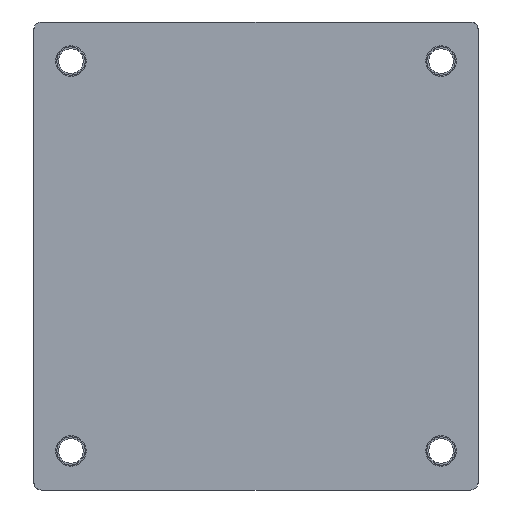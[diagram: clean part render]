
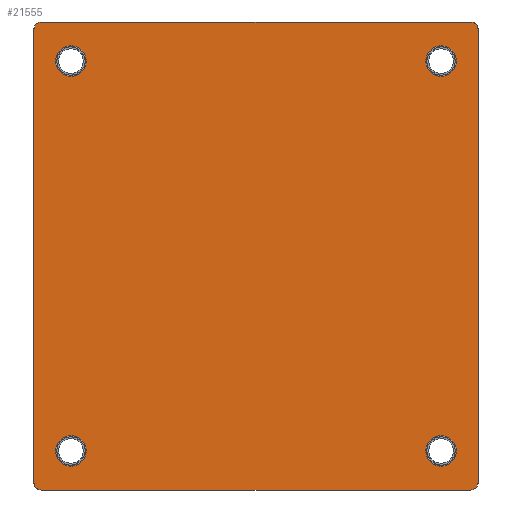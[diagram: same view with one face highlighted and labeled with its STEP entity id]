
A CAD part, front view. The second image highlights one B-rep face of the part: STEP entity #21555.
In plain terms, the highlighted planar face has unit normal (0, -1, 0).
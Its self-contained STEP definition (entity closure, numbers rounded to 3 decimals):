
#124 = CARTESIAN_POINT ( 'NONE',  ( -24.13, -1.5, 25.4 ) ) ;
#145 = AXIS2_PLACEMENT_3D ( 'NONE', #9743, #12148, #17059 ) ;
#338 = CARTESIAN_POINT ( 'NONE',  ( 24.13, -1.5, 25.4 ) ) ;
#362 = CIRCLE ( 'NONE', #28013, 1. ) ;
#366 = VERTEX_POINT ( 'NONE', #2454 ) ;
#553 = ORIENTED_EDGE ( 'NONE', *, *, #12214, .F. ) ;
#565 = FACE_BOUND ( 'NONE', #18195, .T. ) ;
#1164 = EDGE_CURVE ( 'NONE', #21941, #366, #9203, .T. ) ;
#1499 = CIRCLE ( 'NONE', #23279, 2. ) ;
#1554 = DIRECTION ( 'NONE',  ( 0., 0., 1. ) ) ;
#1585 = DIRECTION ( 'NONE',  ( 0., 0., 1. ) ) ;
#1642 = CARTESIAN_POINT ( 'NONE',  ( 28.95, -1.5, -29.5 ) ) ;
#1949 = CARTESIAN_POINT ( 'NONE',  ( -27.95, -1.5, 29.5 ) ) ;
#2259 = DIRECTION ( 'NONE',  ( 0., 0., 1. ) ) ;
#2454 = CARTESIAN_POINT ( 'NONE',  ( 27.95, -1.5, 30.5 ) ) ;
#2600 = DIRECTION ( 'NONE',  ( 0., -1., 0. ) ) ;
#2693 = CARTESIAN_POINT ( 'NONE',  ( -27.95, -1.5, -30.5 ) ) ;
#2716 = EDGE_LOOP ( 'NONE', ( #13388, #11070 ) ) ;
#2731 = EDGE_CURVE ( 'NONE', #15824, #21941, #362, .T. ) ;
#2806 = ORIENTED_EDGE ( 'NONE', *, *, #1164, .F. ) ;
#2814 = VECTOR ( 'NONE', #2259, 1000. ) ;
#3143 = AXIS2_PLACEMENT_3D ( 'NONE', #23446, #11154, #25859 ) ;
#3396 = AXIS2_PLACEMENT_3D ( 'NONE', #11204, #28218, #1554 ) ;
#3546 = AXIS2_PLACEMENT_3D ( 'NONE', #11955, #17061, #19386 ) ;
#3572 = DIRECTION ( 'NONE',  ( 0., -1., 0. ) ) ;
#3664 = CARTESIAN_POINT ( 'NONE',  ( -28.95, -1.5, 30.5 ) ) ;
#4093 = CARTESIAN_POINT ( 'NONE',  ( -24.13, -1.5, 23.4 ) ) ;
#4719 = CARTESIAN_POINT ( 'NONE',  ( 28.95, -1.5, 29.5 ) ) ;
#5398 = ORIENTED_EDGE ( 'NONE', *, *, #2731, .F. ) ;
#5521 = CARTESIAN_POINT ( 'NONE',  ( -24.13, -1.5, 27.4 ) ) ;
#5759 = ORIENTED_EDGE ( 'NONE', *, *, #30239, .F. ) ;
#5918 = CARTESIAN_POINT ( 'NONE',  ( 24.13, -1.5, 25.4 ) ) ;
#6028 = DIRECTION ( 'NONE',  ( 0., 0., 1. ) ) ;
#6138 = VECTOR ( 'NONE', #14904, 1000. ) ;
#6277 = AXIS2_PLACEMENT_3D ( 'NONE', #338, #29450, #19756 ) ;
#6303 = DIRECTION ( 'NONE',  ( 0., 0., 1. ) ) ;
#6971 = EDGE_LOOP ( 'NONE', ( #5759, #27659, #10867, #16750, #31130, #2806, #5398, #19831 ) ) ;
#7019 = LINE ( 'NONE', #24009, #2814 ) ;
#7098 = CARTESIAN_POINT ( 'NONE',  ( -24.13, -1.5, -25.4 ) ) ;
#7380 = DIRECTION ( 'NONE',  ( 0., 0., 1. ) ) ;
#7399 = CARTESIAN_POINT ( 'NONE',  ( -28.95, -1.5, 29.5 ) ) ;
#7522 = EDGE_CURVE ( 'NONE', #17541, #28775, #21913, .T. ) ;
#7610 = CARTESIAN_POINT ( 'NONE',  ( 28.95, -1.5, 30.5 ) ) ;
#8314 = CIRCLE ( 'NONE', #3143, 2. ) ;
#8428 = EDGE_CURVE ( 'NONE', #22903, #21452, #23811, .T. ) ;
#8500 = VERTEX_POINT ( 'NONE', #4093 ) ;
#8944 = CARTESIAN_POINT ( 'NONE',  ( -28.95, -1.5, 30.5 ) ) ;
#9203 = LINE ( 'NONE', #8944, #6138 ) ;
#9332 = VECTOR ( 'NONE', #18404, 1000. ) ;
#9544 = EDGE_CURVE ( 'NONE', #28775, #26764, #16187, .T. ) ;
#9691 = EDGE_CURVE ( 'NONE', #366, #17541, #15037, .T. ) ;
#9743 = CARTESIAN_POINT ( 'NONE',  ( 27.95, -1.5, -29.5 ) ) ;
#10491 = VERTEX_POINT ( 'NONE', #5521 ) ;
#10867 = ORIENTED_EDGE ( 'NONE', *, *, #9544, .F. ) ;
#10995 = DIRECTION ( 'NONE',  ( 0., 1., 0. ) ) ;
#11070 = ORIENTED_EDGE ( 'NONE', *, *, #8428, .F. ) ;
#11154 = DIRECTION ( 'NONE',  ( 0., -1., 0. ) ) ;
#11204 = CARTESIAN_POINT ( 'NONE',  ( 27.95, -1.5, 29.5 ) ) ;
#11259 = CARTESIAN_POINT ( 'NONE',  ( -24.13, -1.5, -23.4 ) ) ;
#11701 = ORIENTED_EDGE ( 'NONE', *, *, #30631, .F. ) ;
#11709 = DIRECTION ( 'NONE',  ( 0., -1., 0. ) ) ;
#11815 = DIRECTION ( 'NONE',  ( 0., 0., 1. ) ) ;
#11955 = CARTESIAN_POINT ( 'NONE',  ( -27.95, -1.5, -29.5 ) ) ;
#11979 = CIRCLE ( 'NONE', #17098, 2. ) ;
#12148 = DIRECTION ( 'NONE',  ( 0., 1., 0. ) ) ;
#12214 = EDGE_CURVE ( 'NONE', #24127, #14012, #23216, .T. ) ;
#13162 = CIRCLE ( 'NONE', #3546, 1. ) ;
#13182 = ORIENTED_EDGE ( 'NONE', *, *, #20000, .F. ) ;
#13388 = ORIENTED_EDGE ( 'NONE', *, *, #19622, .F. ) ;
#13537 = PLANE ( 'NONE',  #23334 ) ;
#14012 = VERTEX_POINT ( 'NONE', #11259 ) ;
#14102 = CARTESIAN_POINT ( 'NONE',  ( 24.13, -1.5, 23.4 ) ) ;
#14181 = CARTESIAN_POINT ( 'NONE',  ( 27.95, -1.5, -30.5 ) ) ;
#14487 = CARTESIAN_POINT ( 'NONE',  ( -28.95, -1.5, -29.5 ) ) ;
#14504 = CARTESIAN_POINT ( 'NONE',  ( -27.95, -1.5, 30.5 ) ) ;
#14883 = EDGE_CURVE ( 'NONE', #26764, #27280, #28614, .T. ) ;
#14904 = DIRECTION ( 'NONE',  ( 1., 0., 0. ) ) ;
#15002 = ORIENTED_EDGE ( 'NONE', *, *, #23708, .F. ) ;
#15037 = CIRCLE ( 'NONE', #3396, 1. ) ;
#15369 = CARTESIAN_POINT ( 'NONE',  ( 24.13, -1.5, 27.4 ) ) ;
#15748 = ORIENTED_EDGE ( 'NONE', *, *, #27857, .F. ) ;
#15824 = VERTEX_POINT ( 'NONE', #7399 ) ;
#16129 = DIRECTION ( 'NONE',  ( 0., -1., 0. ) ) ;
#16187 = CIRCLE ( 'NONE', #145, 1. ) ;
#16750 = ORIENTED_EDGE ( 'NONE', *, *, #7522, .F. ) ;
#16853 = DIRECTION ( 'NONE',  ( 0., 0., 1. ) ) ;
#17059 = DIRECTION ( 'NONE',  ( 0., 0., 1. ) ) ;
#17061 = DIRECTION ( 'NONE',  ( 0., 1., 0. ) ) ;
#17098 = AXIS2_PLACEMENT_3D ( 'NONE', #26734, #24238, #7380 ) ;
#17107 = DIRECTION ( 'NONE',  ( 0., -1., 0. ) ) ;
#17218 = AXIS2_PLACEMENT_3D ( 'NONE', #5918, #3572, #6028 ) ;
#17541 = VERTEX_POINT ( 'NONE', #4719 ) ;
#17958 = CARTESIAN_POINT ( 'NONE',  ( 24.13, -1.5, -23.4 ) ) ;
#18195 = EDGE_LOOP ( 'NONE', ( #11701, #28830 ) ) ;
#18404 = DIRECTION ( 'NONE',  ( -1., 0., 0. ) ) ;
#18802 = VERTEX_POINT ( 'NONE', #29516 ) ;
#18931 = DIRECTION ( 'NONE',  ( 0., 1., 0. ) ) ;
#18993 = CIRCLE ( 'NONE', #28264, 2. ) ;
#19386 = DIRECTION ( 'NONE',  ( 0., 0., 1. ) ) ;
#19622 = EDGE_CURVE ( 'NONE', #21452, #22903, #30688, .T. ) ;
#19756 = DIRECTION ( 'NONE',  ( 0., 0., 1. ) ) ;
#19831 = ORIENTED_EDGE ( 'NONE', *, *, #30655, .F. ) ;
#20000 = EDGE_CURVE ( 'NONE', #10491, #8500, #1499, .T. ) ;
#20489 = EDGE_LOOP ( 'NONE', ( #13182, #15748 ) ) ;
#20818 = CARTESIAN_POINT ( 'NONE',  ( -28.95, -1.5, -30.5 ) ) ;
#20879 = CARTESIAN_POINT ( 'NONE',  ( -24.13, -1.5, 25.4 ) ) ;
#20897 = AXIS2_PLACEMENT_3D ( 'NONE', #7098, #2600, #16853 ) ;
#21175 = EDGE_LOOP ( 'NONE', ( #15002, #553 ) ) ;
#21452 = VERTEX_POINT ( 'NONE', #15369 ) ;
#21555 = ADVANCED_FACE ( 'NONE', ( #24507, #24084, #30167, #28585, #565 ), #13537, .F. ) ;
#21913 = LINE ( 'NONE', #7610, #26805 ) ;
#21941 = VERTEX_POINT ( 'NONE', #14504 ) ;
#22062 = CARTESIAN_POINT ( 'NONE',  ( -24.13, -1.5, -27.4 ) ) ;
#22903 = VERTEX_POINT ( 'NONE', #14102 ) ;
#23216 = CIRCLE ( 'NONE', #20897, 2. ) ;
#23279 = AXIS2_PLACEMENT_3D ( 'NONE', #20879, #16129, #1585 ) ;
#23334 = AXIS2_PLACEMENT_3D ( 'NONE', #3664, #10995, #27897 ) ;
#23446 = CARTESIAN_POINT ( 'NONE',  ( 24.13, -1.5, -25.4 ) ) ;
#23708 = EDGE_CURVE ( 'NONE', #14012, #24127, #11979, .T. ) ;
#23811 = CIRCLE ( 'NONE', #17218, 2. ) ;
#24009 = CARTESIAN_POINT ( 'NONE',  ( -28.95, -1.5, 30.5 ) ) ;
#24084 = FACE_BOUND ( 'NONE', #20489, .T. ) ;
#24127 = VERTEX_POINT ( 'NONE', #22062 ) ;
#24238 = DIRECTION ( 'NONE',  ( 0., -1., 0. ) ) ;
#24507 = FACE_OUTER_BOUND ( 'NONE', #6971, .T. ) ;
#25076 = DIRECTION ( 'NONE',  ( 0., 0., -1. ) ) ;
#25859 = DIRECTION ( 'NONE',  ( 0., 0., 1. ) ) ;
#26205 = CARTESIAN_POINT ( 'NONE',  ( 24.13, -1.5, -25.4 ) ) ;
#26312 = VERTEX_POINT ( 'NONE', #17958 ) ;
#26734 = CARTESIAN_POINT ( 'NONE',  ( -24.13, -1.5, -25.4 ) ) ;
#26764 = VERTEX_POINT ( 'NONE', #14181 ) ;
#26805 = VECTOR ( 'NONE', #25076, 1000. ) ;
#27059 = CIRCLE ( 'NONE', #28911, 2. ) ;
#27280 = VERTEX_POINT ( 'NONE', #2693 ) ;
#27659 = ORIENTED_EDGE ( 'NONE', *, *, #14883, .F. ) ;
#27857 = EDGE_CURVE ( 'NONE', #8500, #10491, #18993, .T. ) ;
#27897 = DIRECTION ( 'NONE',  ( 0., 0., 1. ) ) ;
#28013 = AXIS2_PLACEMENT_3D ( 'NONE', #1949, #18931, #6303 ) ;
#28218 = DIRECTION ( 'NONE',  ( 0., 1., 0. ) ) ;
#28264 = AXIS2_PLACEMENT_3D ( 'NONE', #124, #17107, #29332 ) ;
#28585 = FACE_BOUND ( 'NONE', #21175, .T. ) ;
#28614 = LINE ( 'NONE', #20818, #9332 ) ;
#28775 = VERTEX_POINT ( 'NONE', #1642 ) ;
#28830 = ORIENTED_EDGE ( 'NONE', *, *, #29220, .F. ) ;
#28911 = AXIS2_PLACEMENT_3D ( 'NONE', #26205, #11709, #11815 ) ;
#29220 = EDGE_CURVE ( 'NONE', #18802, #26312, #8314, .T. ) ;
#29332 = DIRECTION ( 'NONE',  ( 0., 0., 1. ) ) ;
#29450 = DIRECTION ( 'NONE',  ( 0., -1., 0. ) ) ;
#29516 = CARTESIAN_POINT ( 'NONE',  ( 24.13, -1.5, -27.4 ) ) ;
#30167 = FACE_BOUND ( 'NONE', #2716, .T. ) ;
#30239 = EDGE_CURVE ( 'NONE', #27280, #30777, #13162, .T. ) ;
#30631 = EDGE_CURVE ( 'NONE', #26312, #18802, #27059, .T. ) ;
#30655 = EDGE_CURVE ( 'NONE', #30777, #15824, #7019, .T. ) ;
#30688 = CIRCLE ( 'NONE', #6277, 2. ) ;
#30777 = VERTEX_POINT ( 'NONE', #14487 ) ;
#31130 = ORIENTED_EDGE ( 'NONE', *, *, #9691, .F. ) ;
